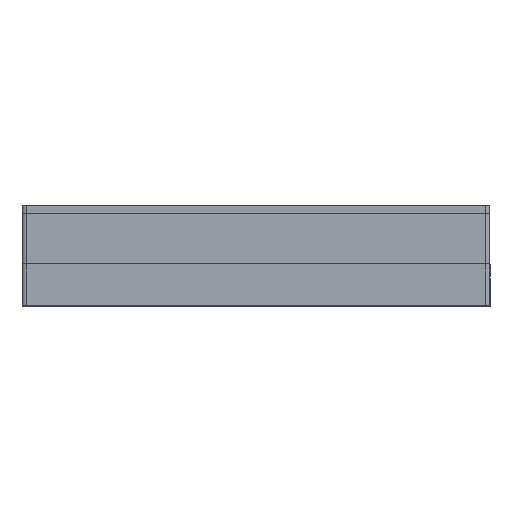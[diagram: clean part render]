
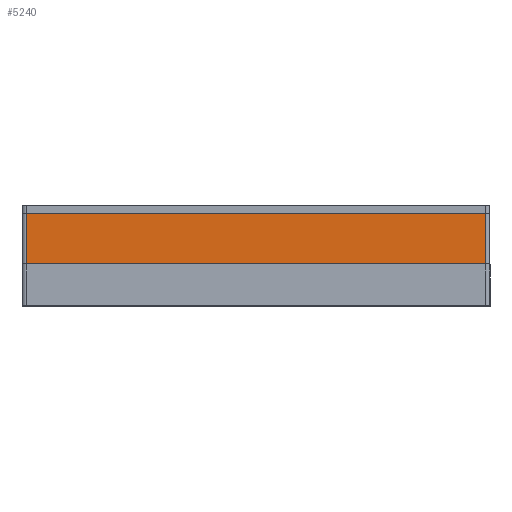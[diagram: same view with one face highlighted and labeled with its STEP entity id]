
A CAD part, top view. The second image highlights one B-rep face of the part: STEP entity #5240.
In plain terms, the highlighted planar face has unit normal (0, 0, 1).
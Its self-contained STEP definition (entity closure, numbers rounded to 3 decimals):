
#484=PLANE('',#5653);
#715=FACE_OUTER_BOUND('',#994,.T.);
#994=EDGE_LOOP('',(#4847,#4848,#4849,#4850));
#1482=LINE('',#8189,#2044);
#1497=LINE('',#8277,#2059);
#1512=LINE('',#8358,#2074);
#1513=LINE('',#8360,#2075);
#2044=VECTOR('',#6689,10.);
#2059=VECTOR('',#6782,1000.);
#2074=VECTOR('',#6873,1000.);
#2075=VECTOR('',#6876,1000.);
#2686=VERTEX_POINT('',#8186);
#2687=VERTEX_POINT('',#8188);
#2697=VERTEX_POINT('',#8212);
#2700=VERTEX_POINT('',#8219);
#3349=EDGE_CURVE('',#2686,#2687,#1482,.T.);
#3391=EDGE_CURVE('',#2697,#2700,#1497,.T.);
#3430=EDGE_CURVE('',#2697,#2687,#1512,.T.);
#3431=EDGE_CURVE('',#2686,#2700,#1513,.T.);
#4847=ORIENTED_EDGE('',*,*,#3349,.F.);
#4848=ORIENTED_EDGE('',*,*,#3431,.T.);
#4849=ORIENTED_EDGE('',*,*,#3391,.F.);
#4850=ORIENTED_EDGE('',*,*,#3430,.T.);
#5240=ADVANCED_FACE('',(#715),#484,.F.);
#5653=AXIS2_PLACEMENT_3D('',#8464,#6974,#6975);
#6689=DIRECTION('',(-1.,0.,0.));
#6782=DIRECTION('',(1.,0.,0.));
#6873=DIRECTION('',(0.,-1.,0.));
#6876=DIRECTION('',(0.,1.,0.));
#6974=DIRECTION('center_axis',(0.,0.,
-1.));
#6975=DIRECTION('ref_axis',(-1.,0.,0.));
#8186=CARTESIAN_POINT('',(-1.,10.,114.));
#8188=CARTESIAN_POINT('',(-111.,10.,114.));
#8189=CARTESIAN_POINT('',(-112.,10.,114.));
#8212=CARTESIAN_POINT('',(-111.,22.,114.));
#8219=CARTESIAN_POINT('',(-1.,22.,114.));
#8277=CARTESIAN_POINT('',(-112.,22.,114.));
#8358=CARTESIAN_POINT('',(-111.,22.,114.));
#8360=CARTESIAN_POINT('',(-1.,22.,114.));
#8464=CARTESIAN_POINT('Origin',(-112.,22.,114.));
